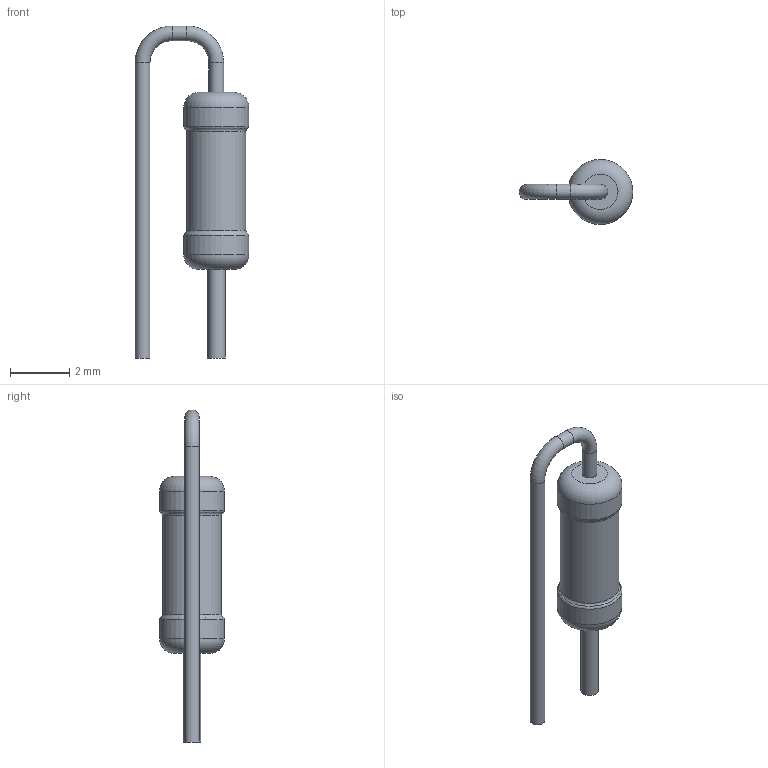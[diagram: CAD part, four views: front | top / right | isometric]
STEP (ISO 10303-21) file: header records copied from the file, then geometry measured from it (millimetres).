
FILE_DESCRIPTION(('STEP AP203'), '1');
FILE_NAME('栖闉罻', '', ('UNSPECIFIED'), ('UNSPECIFIED'), 'ASCON STEP Converter 1.6', 'ASCON Math Kernel', '');
FILE_SCHEMA(('CONFIG_CONTROL_DESIGN'));
Length unit declared in the file: millimetre
Assembly tree (1 placements, depth 2):
  (unnamed)
    (unnamed)
Bounding box: 3.85 x 2.2 x 11.25 mm (x, y, z)
Volume: 23.5 mm3; surface area: 72.8 mm2
Topology: 1 solids, 1 shells, 19 faces, 33 edges, 18 vertices
Faces by surface type: torus 8, cylinder 7, plane 4
Full cylindrical faces by diameter (mm): 0.5 x3, 0.6 x1, 2 x1, 2.2 x2
Entity records: 620 total; most frequent: DIRECTION 78, CARTESIAN_POINT 57, AXIS2_PLACEMENT_3D 39, EDGE_LOOP 36, ORIENTED_EDGE 36, FACE_OUTER_BOUND 30, COLOUR_RGB 20, FILL_AREA_STYLE_COLOUR 20
